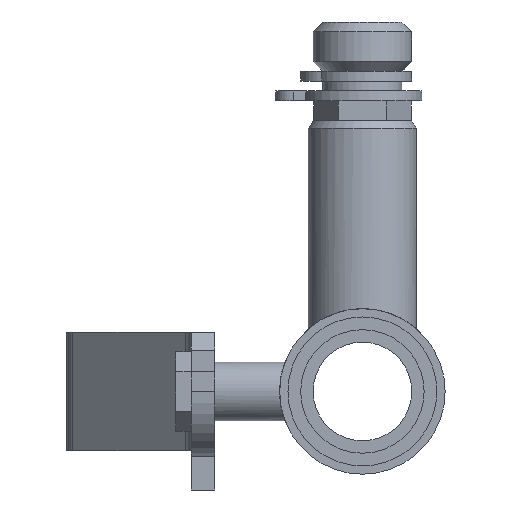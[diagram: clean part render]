
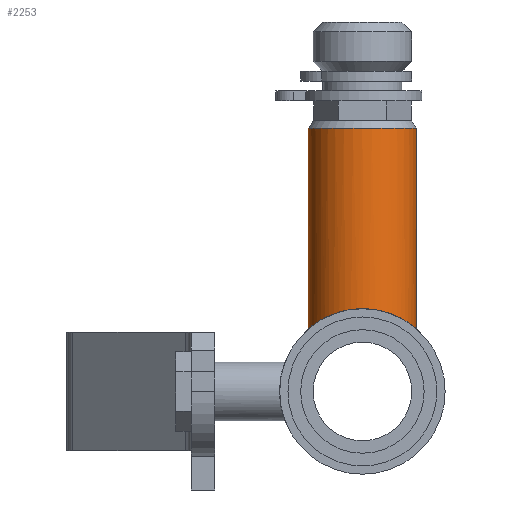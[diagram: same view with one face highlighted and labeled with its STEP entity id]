
A CAD part, left-side view. The second image highlights one B-rep face of the part: STEP entity #2253.
In plain terms, the highlighted cylindrical face has radius 6.985 mm (diameter 13.97 mm), a full revolution.
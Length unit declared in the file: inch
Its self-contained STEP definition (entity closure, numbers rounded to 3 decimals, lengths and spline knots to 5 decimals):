
#55=B_SPLINE_CURVE_WITH_KNOTS('',3,(#3804,#3805,#3806,#3807,#3808,#3809,
#3810,#3811,#3812,#3813,#3814,#3815,#3816,#3817,#3818,#3819,#3820,#3821,
#3822,#3823,#3824,#3825,#3826,#3827,#3828,#3829),.UNSPECIFIED.,.F.,.F.,
(4,2,2,2,2,2,2,2,2,2,2,2,4),(0.,0.27492,0.54984,0.82201,
1.09418,1.36635,1.63852,1.91344,2.18836,
2.46329,2.73821,3.01038,3.28255),
 .UNSPECIFIED.);
#56=B_SPLINE_CURVE_WITH_KNOTS('',3,(#3830,#3831,#3832,#3833,#3834,#3835,
#3836,#3837,#3838,#3839),.UNSPECIFIED.,.F.,.F.,(4,2,2,2,4),(3.28255,
3.55471,3.82688,4.10181,4.37673),
 .UNSPECIFIED.);
#266=FACE_OUTER_BOUND('',#399,.T.);
#399=EDGE_LOOP('',(#1954,#1955,#1956,#1957,#1958));
#604=LINE('',#3802,#798);
#798=VECTOR('',#3096,0.275);
#890=CIRCLE('',#2476,0.275);
#1079=VERTEX_POINT('',#3797);
#1080=VERTEX_POINT('',#3801);
#1081=VERTEX_POINT('',#3803);
#1375=EDGE_CURVE('',#1079,#1079,#890,.T.);
#1377=EDGE_CURVE('',#1079,#1080,#604,.T.);
#1378=EDGE_CURVE('',#1081,#1080,#55,.T.);
#1379=EDGE_CURVE('',#1080,#1081,#56,.T.);
#1954=ORIENTED_EDGE('',*,*,#1375,.F.);
#1955=ORIENTED_EDGE('',*,*,#1377,.T.);
#1956=ORIENTED_EDGE('',*,*,#1378,.F.);
#1957=ORIENTED_EDGE('',*,*,#1379,.F.);
#1958=ORIENTED_EDGE('',*,*,#1377,.F.);
#2025=CYLINDRICAL_SURFACE('',#2477,0.275);
#2253=ADVANCED_FACE('',(#266),#2025,.T.);
#2476=AXIS2_PLACEMENT_3D('',#3798,#3091,#3092);
#2477=AXIS2_PLACEMENT_3D('',#3800,#3094,#3095);
#3091=DIRECTION('center_axis',(0.,0.,1.));
#3092=DIRECTION('ref_axis',(-1.,0.,0.));
#3094=DIRECTION('center_axis',(0.,0.,1.));
#3095=DIRECTION('ref_axis',(-1.,0.,0.));
#3096=DIRECTION('',(0.,0.,-1.));
#3797=CARTESIAN_POINT('',(-0.375,0.,1.335));
#3798=CARTESIAN_POINT('Origin',(-0.65,0.,1.335));
#3800=CARTESIAN_POINT('Origin',(-0.65,0.,0.));
#3801=CARTESIAN_POINT('',(-0.375,0.,0.42));
#3802=CARTESIAN_POINT('',(-0.375,0.,0.));
#3803=CARTESIAN_POINT('',(-0.65,-0.275,0.31745));
#3804=CARTESIAN_POINT('Ctrl Pts',(-0.65,-0.275,0.31745));
#3805=CARTESIAN_POINT('Ctrl Pts',(-0.68608,-0.275,0.31745));
#3806=CARTESIAN_POINT('Ctrl Pts',(-0.72325,-0.26756,
0.32423));
#3807=CARTESIAN_POINT('Ctrl Pts',(-0.79039,-0.23925,
0.34565));
#3808=CARTESIAN_POINT('Ctrl Pts',(-0.82052,-0.21839,
0.35977));
#3809=CARTESIAN_POINT('Ctrl Pts',(-0.86815,-0.17076,
0.38465));
#3810=CARTESIAN_POINT('Ctrl Pts',(-0.88918,-0.14057,
0.39731));
#3811=CARTESIAN_POINT('Ctrl Pts',(-0.91763,-0.07308,
0.41506));
#3812=CARTESIAN_POINT('Ctrl Pts',(-0.925,-0.03572,0.42));
#3813=CARTESIAN_POINT('Ctrl Pts',(-0.925,0.03572,0.42));
#3814=CARTESIAN_POINT('Ctrl Pts',(-0.91763,0.07308,
0.41506));
#3815=CARTESIAN_POINT('Ctrl Pts',(-0.88918,0.14057,
0.39731));
#3816=CARTESIAN_POINT('Ctrl Pts',(-0.86815,0.17076,
0.38465));
#3817=CARTESIAN_POINT('Ctrl Pts',(-0.82052,0.21839,0.35977));
#3818=CARTESIAN_POINT('Ctrl Pts',(-0.79039,0.23925,
0.34565));
#3819=CARTESIAN_POINT('Ctrl Pts',(-0.72325,0.26756,
0.32423));
#3820=CARTESIAN_POINT('Ctrl Pts',(-0.68608,0.275,0.31745));
#3821=CARTESIAN_POINT('Ctrl Pts',(-0.61392,0.275,0.31745));
#3822=CARTESIAN_POINT('Ctrl Pts',(-0.57675,0.26756,
0.32423));
#3823=CARTESIAN_POINT('Ctrl Pts',(-0.50961,0.23925,
0.34565));
#3824=CARTESIAN_POINT('Ctrl Pts',(-0.47948,0.21839,0.35977));
#3825=CARTESIAN_POINT('Ctrl Pts',(-0.43185,0.17076,
0.38465));
#3826=CARTESIAN_POINT('Ctrl Pts',(-0.41082,0.14057,
0.39731));
#3827=CARTESIAN_POINT('Ctrl Pts',(-0.38237,0.07308,
0.41506));
#3828=CARTESIAN_POINT('Ctrl Pts',(-0.375,0.03572,0.42));
#3829=CARTESIAN_POINT('Ctrl Pts',(-0.375,0.,0.42));
#3830=CARTESIAN_POINT('Ctrl Pts',(-0.375,0.,0.42));
#3831=CARTESIAN_POINT('Ctrl Pts',(-0.375,-0.03572,0.42));
#3832=CARTESIAN_POINT('Ctrl Pts',(-0.38237,-0.07308,
0.41506));
#3833=CARTESIAN_POINT('Ctrl Pts',(-0.41082,-0.14057,
0.39731));
#3834=CARTESIAN_POINT('Ctrl Pts',(-0.43185,-0.17076,
0.38465));
#3835=CARTESIAN_POINT('Ctrl Pts',(-0.47948,-0.21839,
0.35977));
#3836=CARTESIAN_POINT('Ctrl Pts',(-0.50961,-0.23925,
0.34565));
#3837=CARTESIAN_POINT('Ctrl Pts',(-0.57675,-0.26756,
0.32423));
#3838=CARTESIAN_POINT('Ctrl Pts',(-0.61392,-0.275,0.31745));
#3839=CARTESIAN_POINT('Ctrl Pts',(-0.65,-0.275,0.31745));
